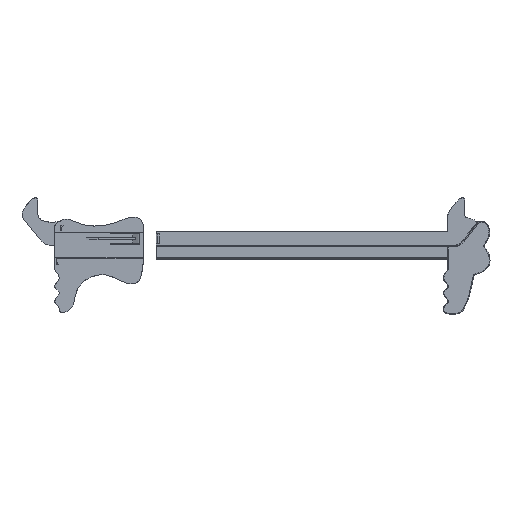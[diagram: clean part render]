
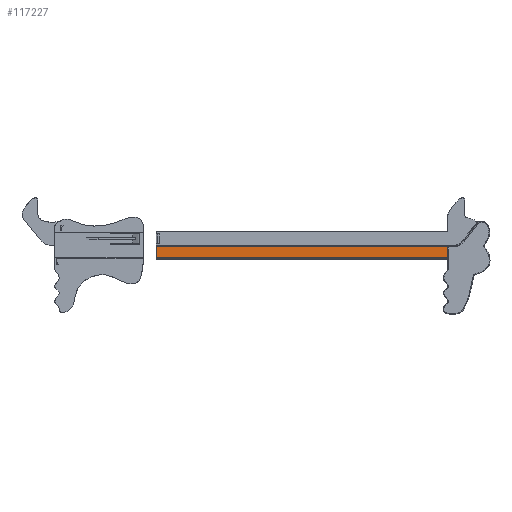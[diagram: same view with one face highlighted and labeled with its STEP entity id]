
A CAD part, top view. The second image highlights one B-rep face of the part: STEP entity #117227.
In plain terms, the highlighted planar face has unit normal (0, 0, 1).
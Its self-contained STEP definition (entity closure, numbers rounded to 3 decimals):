
#10453=FACE_OUTER_BOUND('',#16691,.T.);
#16691=EDGE_LOOP('',(#92480,#92481,#92482,#92483));
#26262=LINE('',#182076,#39164);
#26279=LINE('',#182931,#39181);
#26287=LINE('',#183197,#39189);
#26288=LINE('',#183198,#39190);
#39164=VECTOR('',#134438,10.);
#39181=VECTOR('',#134519,10.);
#39189=VECTOR('',#134543,10.);
#39190=VECTOR('',#134544,10.);
#51490=VERTEX_POINT('',#182058);
#51495=VERTEX_POINT('',#182074);
#51521=VERTEX_POINT('',#182930);
#51528=VERTEX_POINT('',#183196);
#66123=EDGE_CURVE('',#51490,#51495,#26262,.F.);
#66165=EDGE_CURVE('',#51521,#51490,#26279,.T.);
#66178=EDGE_CURVE('',#51495,#51528,#26287,.T.);
#66179=EDGE_CURVE('',#51521,#51528,#26288,.T.);
#92480=ORIENTED_EDGE('',*,*,#66165,.T.);
#92481=ORIENTED_EDGE('',*,*,#66123,.T.);
#92482=ORIENTED_EDGE('',*,*,#66178,.T.);
#92483=ORIENTED_EDGE('',*,*,#66179,.F.);
#112318=PLANE('',#122348);
#117227=ADVANCED_FACE('',(#10453),#112318,.F.);
#122348=AXIS2_PLACEMENT_3D('',#183195,#134541,#134542);
#134438=DIRECTION('',(1.,0.,0.));
#134519=DIRECTION('',(0.,1.,0.));
#134541=DIRECTION('center_axis',(0.,0.,-1.));
#134542=DIRECTION('ref_axis',(-1.,0.,0.));
#134543=DIRECTION('',(0.,-1.,0.));
#134544=DIRECTION('',(-1.,0.,0.));
#182058=CARTESIAN_POINT('',(429.598,8.212,8.));
#182074=CARTESIAN_POINT('',(209.598,8.212,8.));
#182076=CARTESIAN_POINT('',(377.671,8.212,8.));
#182930=CARTESIAN_POINT('',(429.598,-0.191,8.));
#182931=CARTESIAN_POINT('',(429.598,4.521,8.));
#183195=CARTESIAN_POINT('Origin',(443.863,0.958,8.));
#183196=CARTESIAN_POINT('',(209.598,-0.191,8.));
#183197=CARTESIAN_POINT('',(209.598,0.,8.));
#183198=CARTESIAN_POINT('',(264.598,-0.191,8.));
